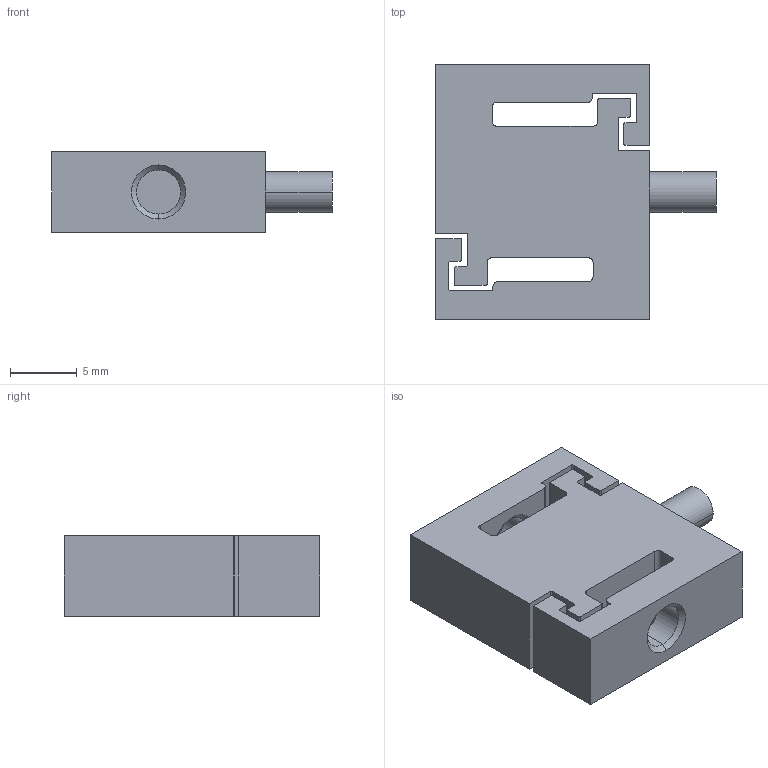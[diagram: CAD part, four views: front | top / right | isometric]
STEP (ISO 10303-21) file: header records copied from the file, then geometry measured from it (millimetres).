
FILE_DESCRIPTION (( 'STEP AP203' ), '1' );
FILE_NAME ('res2.STEP', '2019-11-06T01:38:30', ( '' ), ( '' ), 'SwSTEP 2.0', 'SolidWorks 2016', '' );
FILE_SCHEMA (( 'CONFIG_CONTROL_DESIGN' ));
Length unit declared in the file: millimetre
Products named in the file (1): res2
Bounding box: 21 x 19.1 x 6 mm (x, y, z)
Volume: 1595.4 mm3; surface area: 1480.5 mm2
Topology: 1 solids, 1 shells, 81 faces, 226 edges, 148 vertices
Faces by surface type: plane 39, cylinder 34, cone 8
Entity records: 2697 total; most frequent: DIRECTION 466, CARTESIAN_POINT 456, ORIENTED_EDGE 452, EDGE_CURVE 226, AXIS2_PLACEMENT_3D 158, VECTOR 150, LINE 150, VERTEX_POINT 148
